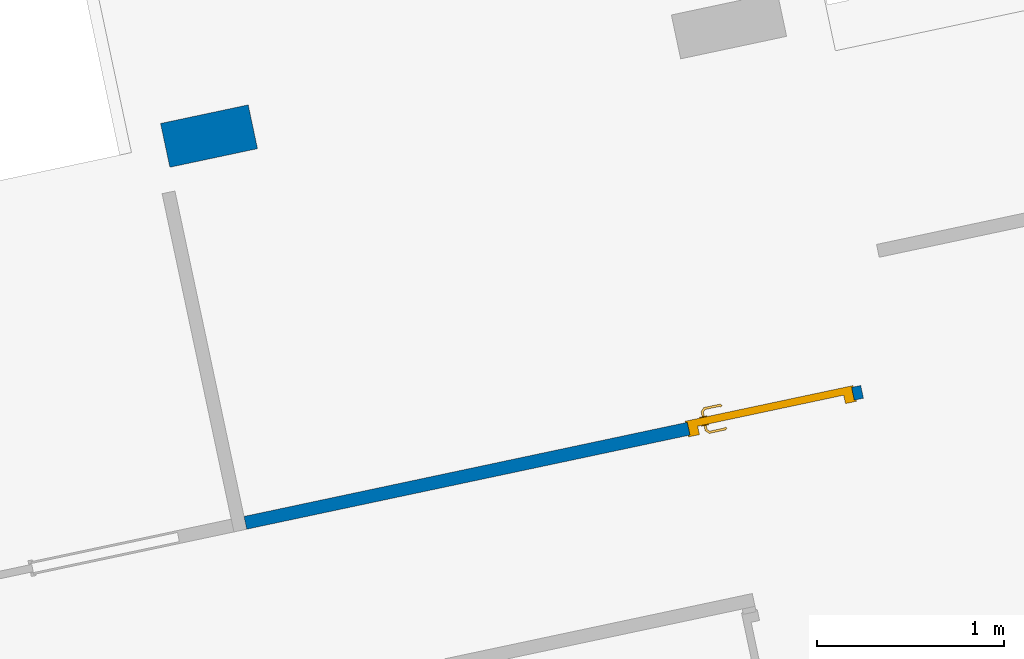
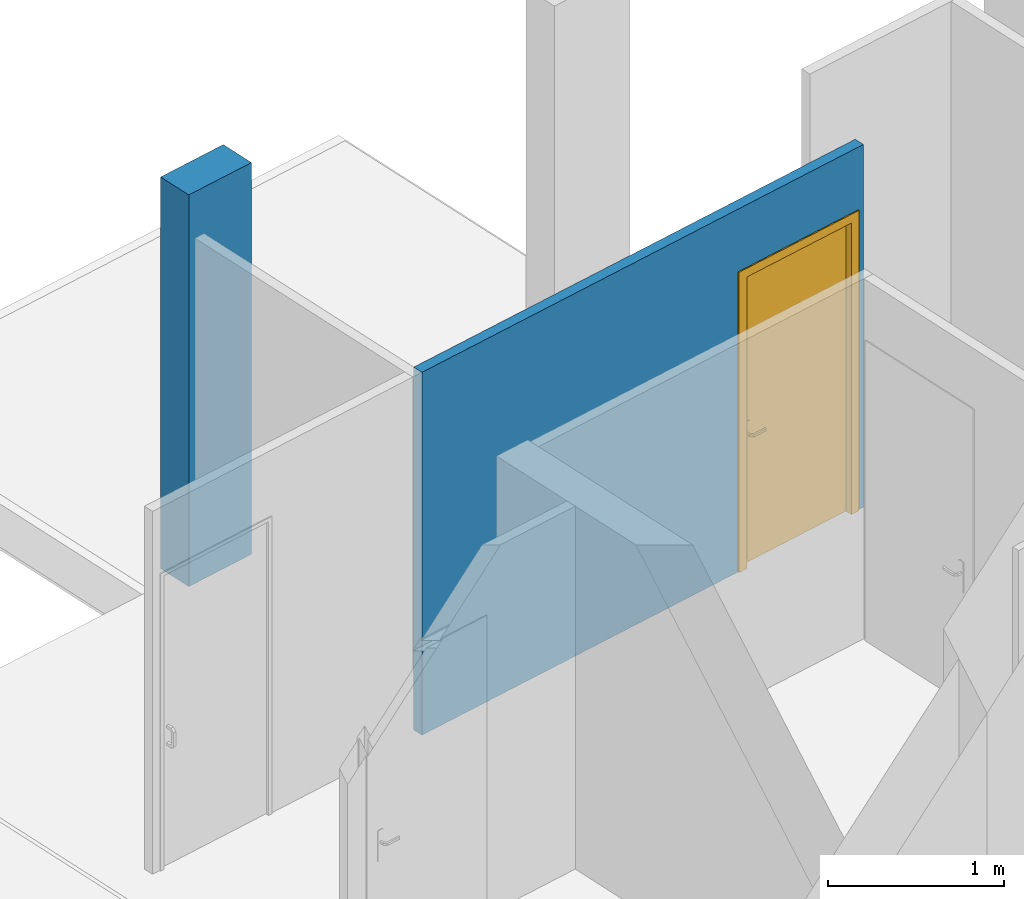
# One storey, part 2 of 11: 2 walls, 1 door, 1 opening.
"""IFC2X3 building model written with IfcOpenShell, lengths in centimetres."""

from ifc_helpers import new_model, entity, si_unit, converted_unit, derived_unit, direction, frame, frame_2d, origin, place, context, subcontext, project, spatial, rectangle, extrude, faceted_brep, source, transform, mapped, material, layer, layer_set, layer_usage, type_object, type_shapes, element, fill, save


model = new_model("IFC2X3")

# Units and contexts
model_context = context("Model", 3, precision=0.001, world=origin(), true_north=direction((6.12303176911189e-17, 1.0)))
body_context = subcontext(model_context, "Body", "Model", "MODEL_VIEW")
ifc_project = project(units=[si_unit("LENGTHUNIT", "METRE", prefix="CENTI"), si_unit("AREAUNIT", "SQUARE_METRE"), si_unit("VOLUMEUNIT", "CUBIC_METRE"), converted_unit("PLANEANGLEUNIT", "DEGREE", entity("IfcRatioMeasure", 0.0174532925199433), si_unit("PLANEANGLEUNIT", "RADIAN"), dimensions=[0, 0, 0, 0, 0, 0, 0]), si_unit("MASSUNIT", "GRAM", prefix="KILO"), derived_unit("MASSDENSITYUNIT", [(si_unit("MASSUNIT", "GRAM", prefix="KILO"), 1), (si_unit("LENGTHUNIT", "METRE"), -3)]), derived_unit("IONCONCENTRATIONUNIT", [(si_unit("MASSUNIT", "GRAM", prefix="KILO"), 1), (si_unit("LENGTHUNIT", "METRE"), -3)]), derived_unit("MOMENTOFINERTIAUNIT", [(si_unit("LENGTHUNIT", "METRE"), 4)]), si_unit("TIMEUNIT", "SECOND"), si_unit("FREQUENCYUNIT", "HERTZ"), si_unit("THERMODYNAMICTEMPERATUREUNIT", "DEGREE_CELSIUS"), derived_unit("THERMALTRANSMITTANCEUNIT", [(si_unit("MASSUNIT", "GRAM", prefix="KILO"), 1), (si_unit("THERMODYNAMICTEMPERATUREUNIT", "KELVIN"), -1), (si_unit("TIMEUNIT", "SECOND"), -3)]), derived_unit("THERMALCONDUCTANCEUNIT", [(si_unit("MASSUNIT", "GRAM", prefix="KILO"), 1), (si_unit("THERMODYNAMICTEMPERATUREUNIT", "KELVIN"), -1), (si_unit("TIMEUNIT", "SECOND"), -3), (si_unit("LENGTHUNIT", "METRE"), 1)]), derived_unit("VOLUMETRICFLOWRATEUNIT", [(si_unit("LENGTHUNIT", "METRE"), 3), (si_unit("TIMEUNIT", "SECOND"), -1)]), derived_unit("MASSFLOWRATEUNIT", [(si_unit("MASSUNIT", "GRAM", prefix="KILO"), 1), (si_unit("TIMEUNIT", "SECOND"), -1)]), derived_unit("ROTATIONALFREQUENCYUNIT", [(si_unit("TIMEUNIT", "SECOND"), -1)]), si_unit("ELECTRICCURRENTUNIT", "AMPERE"), si_unit("ELECTRICVOLTAGEUNIT", "VOLT"), si_unit("POWERUNIT", "WATT"), si_unit("FORCEUNIT", "NEWTON", prefix="KILO"), si_unit("ILLUMINANCEUNIT", "LUX"), si_unit("LUMINOUSFLUXUNIT", "LUMEN"), si_unit("LUMINOUSINTENSITYUNIT", "CANDELA"), derived_unit("USERDEFINED", [(si_unit("MASSUNIT", "GRAM", prefix="KILO"), -1), (si_unit("LENGTHUNIT", "METRE"), -2), (si_unit("TIMEUNIT", "SECOND"), 3), (si_unit("LUMINOUSFLUXUNIT", "LUMEN"), 1)]), derived_unit("USERDEFINED", [(si_unit("MASSUNIT", "GRAM", prefix="KILO"), 1), (si_unit("TIMEUNIT", "SECOND"), -3), (si_unit("LENGTHUNIT", "METRE"), 3), (si_unit("ELECTRICCURRENTUNIT", "AMPERE"), -2)]), derived_unit("SOUNDPOWERUNIT", [(si_unit("MASSUNIT", "GRAM", prefix="KILO"), 1), (si_unit("TIMEUNIT", "SECOND"), -3), (si_unit("LENGTHUNIT", "METRE"), 2)]), derived_unit("SOUNDPRESSUREUNIT", [(si_unit("MASSUNIT", "GRAM", prefix="KILO"), 1), (si_unit("LENGTHUNIT", "METRE"), -1), (si_unit("TIMEUNIT", "SECOND"), -2)]), derived_unit("LINEARVELOCITYUNIT", [(si_unit("LENGTHUNIT", "METRE"), 1), (si_unit("TIMEUNIT", "SECOND"), -1)]), si_unit("PRESSUREUNIT", "PASCAL"), derived_unit("USERDEFINED", [(si_unit("MASSUNIT", "GRAM", prefix="KILO"), 1), (si_unit("LENGTHUNIT", "METRE"), -2), (si_unit("TIMEUNIT", "SECOND"), -2)]), derived_unit("LINEARFORCEUNIT", [(si_unit("MASSUNIT", "GRAM", prefix="KILO"), 1), (si_unit("TIMEUNIT", "SECOND"), -2)]), derived_unit("PLANARFORCEUNIT", [(si_unit("MASSUNIT", "GRAM", prefix="KILO"), 1), (si_unit("LENGTHUNIT", "METRE"), -1), (si_unit("TIMEUNIT", "SECOND"), -2)]), derived_unit("SPECIFICHEATCAPACITYUNIT", [(si_unit("THERMODYNAMICTEMPERATUREUNIT", "KELVIN"), -1), (si_unit("LENGTHUNIT", "METRE"), 2), (si_unit("TIMEUNIT", "SECOND"), -2)]), derived_unit("HEATINGVALUEUNIT", [(si_unit("LENGTHUNIT", "METRE"), 2), (si_unit("TIMEUNIT", "SECOND"), -2)]), derived_unit("VAPORPERMEABILITYUNIT", [(si_unit("LENGTHUNIT", "METRE"), -1), (si_unit("TIMEUNIT", "SECOND"), 1)]), derived_unit("DYNAMICVISCOSITYUNIT", [(si_unit("MASSUNIT", "GRAM", prefix="KILO"), 1), (si_unit("TIMEUNIT", "SECOND"), -1), (si_unit("LENGTHUNIT", "METRE"), -1)]), derived_unit("THERMALEXPANSIONCOEFFICIENTUNIT", [(si_unit("THERMODYNAMICTEMPERATUREUNIT", "KELVIN"), -1)]), derived_unit("MODULUSOFELASTICITYUNIT", [(si_unit("MASSUNIT", "GRAM", prefix="KILO"), 1), (si_unit("LENGTHUNIT", "METRE"), -1), (si_unit("TIMEUNIT", "SECOND"), -2)]), derived_unit("ISOTHERMALMOISTURECAPACITYUNIT", [(si_unit("LENGTHUNIT", "METRE"), 3), (si_unit("MASSUNIT", "GRAM", prefix="KILO"), -1)]), derived_unit("MOISTUREDIFFUSIVITYUNIT", [(si_unit("TIMEUNIT", "SECOND"), -1), (si_unit("LENGTHUNIT", "METRE"), 2)])], contexts=[model_context])

# Site, building, storey
site_placement = place(None, frame((14083.8920177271, -6853.25409548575, 6900.0), z_axis=(0.0, 0.0, 1.0), x_axis=(0.978188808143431, 0.207717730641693, 0.0)))
site = spatial("IfcSite", under=ifc_project, at=site_placement, Name="Surface", CompositionType="ELEMENT")
building_placement = place(site_placement, origin())
building = spatial("IfcBuilding", under=site, at=building_placement, CompositionType="ELEMENT")
storey_placement = place(building_placement, frame((0.0, 0.0, 17.0)))
storey = spatial("IfcBuildingStorey", under=building, at=storey_placement, Name="Rez de chaussée", CompositionType="ELEMENT", Elevation=17.0000000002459)

# Wall
ifc_material_1 = material(Name="__ ENDUIT_Blanc")
ifc_layer_1 = layer(ifc_material_1, 2.0)
ifc_material_2 = material(Name="Béton, précoulé")
ifc_layer_2 = layer(ifc_material_2, 20.0)
ifc_layer_3 = layer(ifc_material_1, 2.0)
ifc_layer_set_1 = layer_set([ifc_layer_1, ifc_layer_2, ifc_layer_3], Name="Mur de base:*BRIQUE 24 (20 + INT 2 + EXT 2) (enduit 2 faces)")
ifc_layer_usage_1 = layer_usage(ifc_layer_set_1, "AXIS2", "NEGATIVE", 12.0)
wall_type_1 = type_object("IfcWallType", Name="Mur de base:*BRIQUE 24 (20 + INT 2 + EXT 2) (enduit 2 faces)", PredefinedType="STANDARD", material=ifc_layer_set_1)
wall_1_placement = place(storey_placement, frame((-7501.79714756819, 15438.9391445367, 0.0)))
element("IfcWallStandardCase", 1, at=wall_1_placement, inside=storey, type_object=wall_type_1, material=ifc_layer_usage_1, Name="Mur de base:*BRIQUE 24 (20 + INT 2 + EXT 2) (enduit 2 faces)", ObjectType="Mur de base:*BRIQUE 24 (20 + INT 2 + EXT 2) (enduit 2 faces)", context=body_context, shape_type="SweptSolid", body=[
    extrude(rectangle(XDim=48.0000000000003, YDim=24.0000000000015, at=frame_2d((24.0000000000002, 0.0), x_axis=(-1.0, 0.0))), origin(), (0.0, 0.0, 1.0), 271.999999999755),
])

# Wall, opening, door
ifc_material_3 = material(Name="__ BA 13")
ifc_layer_4 = layer(ifc_material_3, 7.0)
ifc_layer_set_2 = layer_set([ifc_layer_4], Name="Mur de base:*Cloison 72/48 cm")
ifc_layer_usage_2 = layer_usage(ifc_layer_set_2, "AXIS2", "NEGATIVE", 3.5)
wall_type_2 = type_object("IfcWallType", Name="Mur de base:*Cloison 72/48 cm", PredefinedType="STANDARD", material=ifc_layer_set_2)
wall_2_placement = place(storey_placement, frame((-7163.9551432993, 15232.1673447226, 0.0), z_axis=(0.0, 0.0, 1.0), x_axis=(-1.0, 0.0, 0.0)))
wall_2 = element("IfcWallStandardCase", 2, at=wall_2_placement, inside=storey, type_object=wall_type_2, material=ifc_layer_usage_2, Name="Mur de base:*Cloison 72/48 cm", ObjectType="Mur de base:*Cloison 72/48 cm", context=body_context, shape_type="SweptSolid", body=[
    extrude(rectangle(XDim=337.842004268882, YDim=7.00000000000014, at=frame_2d((168.921002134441, -8.66418048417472e-13), x_axis=(1.0, 0.0))), origin(), (0.0, 0.0, 1.0), 251.999999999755),
])
opening_placement = place(wall_2_placement, frame((95.0, 3.49999999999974, 0.0)))
opening = element("IfcOpeningElement", 3, at=opening_placement, cuts=wall_2, Name="*Porte_alveolaire:Pp 83 x 204:1", ObjectType="Opening", context=body_context, shape_type="SweptSolid", body=[
    extrude(rectangle(XDim=207.5, YDim=89.9999999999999, at=frame_2d((103.75, 45.0), x_axis=(1.0, 0.0))), frame((0.0, 0.0, 0.0), z_axis=(0.0, -1.0, 0.0), x_axis=(0.0, 0.0, 1.0)), (0.0, 0.0, 1.0), 7.0),
])
ifc_material_4 = material(Name="<Unnamed>")
door_style = type_object("IfcDoorStyle", Name="*Porte_alveolaire:Pp 83 x 204", ConstructionType="NOTDEFINED", OperationType="NOTDEFINED", ParameterTakesPrecedence=False, Sizeable=False, material=ifc_material_4)
shared_shape = source(origin(), body_context, "Body", "Brep", [
    faceted_brep([(81.2025298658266, 3.69990393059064, 90.7780440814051), (80.7974701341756, 3.69990393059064, 90.7780440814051), (80.3999999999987, 3.69990393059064, 90.699999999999), (80.3999999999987, 3.69990393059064, 89.300000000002), (80.7974701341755, 3.69990393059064, 89.221955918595), (81.2025298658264, 3.69990393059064, 89.2219559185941), (81.6000000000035, 3.69990393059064, 89.2999999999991), (81.6000000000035, 3.69990393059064, 90.699999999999), (80.3999999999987, 5.94842438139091, 90.699999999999), (80.3999999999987, 5.94842438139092, 89.300000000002), (80.7974701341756, 6.11306190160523, 90.7780440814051), (81.2025298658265, 6.28084313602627, 90.7780440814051), (79.5838906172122, 7.89948238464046, 90.7780440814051), (79.4161093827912, 7.49442265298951, 90.7780440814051), (71.079312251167, 7.49442265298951, 90.7780440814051), (70.911531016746, 7.89948238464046, 90.7780440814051), (70.1451046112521, 7.13305597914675, 90.7780440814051), (70.431525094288, 6.84663549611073, 90.7780440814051), (81.6000000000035, 6.44548065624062, 90.699999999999), (81.6000000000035, 6.44548065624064, 89.2999999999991), (81.2025298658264, 6.28084313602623, 89.2219559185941), (80.7974701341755, 6.1130619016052, 89.221955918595), (79.4161093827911, 7.49442265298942, 89.221955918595), (79.5838906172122, 7.89948238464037, 89.2219559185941), (70.911531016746, 7.89948238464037, 89.221955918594), (71.079312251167, 7.49442265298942, 89.221955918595), (70.4315250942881, 6.84663549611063, 89.221955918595), (70.1451046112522, 7.13305597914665, 89.221955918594), (79.2514718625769, 7.09695251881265, 89.300000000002), (79.2514718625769, 7.09695251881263, 90.699999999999), (79.7485281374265, 8.29695251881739, 90.699999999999), (79.7485281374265, 8.29695251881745, 89.2999999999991), (75.2477108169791, 7.0969525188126, 90.699999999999), (71.2439497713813, 7.09695251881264, 90.699999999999), (71.2439497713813, 7.09695251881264, 89.300000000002), (75.2477108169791, 7.09695251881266, 89.300000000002), (75.247710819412, 7.71239668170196, 90.7878116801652), (74.7399422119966, 8.29695251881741, 90.699999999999), (70.7468934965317, 8.29695251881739, 90.699999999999), (75.7554791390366, 8.29695251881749, 89.2999999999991), (70.7468934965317, 8.29695251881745, 89.2999999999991), (75.2477107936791, 7.71239667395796, 89.2121883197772), (69.8640507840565, 7.41410980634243, 90.699999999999), (69.8640507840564, 7.41410980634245, 89.2999999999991), (70.7125789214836, 6.56558166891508, 89.300000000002), (70.7125789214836, 6.56558166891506, 90.699999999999)], [[[0, 1, 2, 3, 4, 5, 6, 7]], [[8, 9, 3, 2]], [[1, 10, 8, 2]], [[1, 0, 11, 12, 13, 10]], [[14, 15, 16, 17]], [[7, 18, 11, 0]], [[18, 7, 6, 19]], [[6, 5, 20, 19]], [[5, 4, 21, 22, 23, 20]], [[24, 25, 26, 27]], [[4, 3, 9, 21]], [[28, 9, 8, 29]], [[8, 10, 13, 29]], [[18, 30, 12, 11]], [[31, 30, 18, 19]], [[19, 20, 23, 31]], [[21, 9, 28, 22]], [[28, 29, 32, 33, 34, 35]], [[36, 32, 13]], [[37, 38, 15]], [[37, 12, 30]], [[36, 12, 37]], [[14, 32, 36]], [[36, 15, 14]], [[29, 13, 32]], [[32, 14, 33]], [[12, 36, 13]], [[15, 36, 37]], [[30, 31, 39, 40, 38, 37]], [[23, 41, 39]], [[24, 39, 41]], [[39, 31, 23]], [[39, 24, 40]], [[22, 35, 41]], [[41, 23, 22]], [[41, 35, 25]], [[35, 22, 28]], [[34, 25, 35]], [[24, 41, 25]], [[17, 16, 42, 43, 27, 26, 44, 45]], [[44, 34, 33, 45]], [[33, 14, 17, 45]], [[15, 38, 42, 16]], [[42, 38, 40, 43]], [[24, 27, 43, 40]], [[34, 44, 26, 25]]]),
    faceted_brep([(80.7974701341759, -1.30009606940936, 90.7780440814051), (81.2025298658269, -1.30009606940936, 90.7780440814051), (81.6000000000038, -1.30009606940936, 90.6999999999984), (81.6000000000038, -1.30009606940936, 89.2999999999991), (81.2025298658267, -1.30009606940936, 89.221955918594), (80.7974701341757, -1.30009606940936, 89.221955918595), (80.399999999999, -1.30009606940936, 89.3000000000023), (80.3999999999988, -1.30009606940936, 90.699999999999), (81.2025298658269, -3.90055361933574, 90.7780440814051), (81.600000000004, -4.06519113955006, 90.6999999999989), (80.7974701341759, -3.73277238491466, 90.7780440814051), (79.4298602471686, -5.10038227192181, 90.7780440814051), (79.5976414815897, -5.50544200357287, 90.7780440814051), (70.9142453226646, -5.50544200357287, 90.778044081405), (71.0820265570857, -5.10038227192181, 90.778044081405), (70.4342394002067, -4.45259511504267, 90.778044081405), (70.1478189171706, -4.73901559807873, 90.778044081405), (80.3999999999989, -3.56813486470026, 90.699999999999), (80.399999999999, -3.56813486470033, 89.3000000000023), (80.7974701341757, -3.73277238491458, 89.221955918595), (81.2025298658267, -3.90055361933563, 89.221955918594), (79.5976414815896, -5.5054420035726, 89.221955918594), (79.4298602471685, -5.10038227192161, 89.221955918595), (71.0820265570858, -5.10038227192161, 89.221955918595), (70.9142453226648, -5.50544200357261, 89.221955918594), (70.1478189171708, -4.73901559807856, 89.221955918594), (70.4342394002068, -4.45259511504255, 89.221955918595), (81.6000000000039, -4.06519113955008, 89.2999999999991), (79.7622790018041, -5.90291213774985, 90.6999999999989), (79.2652227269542, -4.70291213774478, 90.699999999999), (79.2652227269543, -4.70291213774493, 89.3000000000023), (79.762279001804, -5.90291213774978, 89.2999999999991), (75.2559433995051, -5.31837634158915, 90.7878115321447), (75.7692302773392, -5.90291213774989, 90.6999999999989), (70.7496078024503, -5.9029121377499, 90.6999999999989), (75.2559434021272, -4.70291213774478, 90.699999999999), (71.2466640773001, -4.70291213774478, 90.6999999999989), (75.2559436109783, -4.70291213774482, 89.3000000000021), (71.2466640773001, -4.70291213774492, 89.3000000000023), (75.2559434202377, -5.31837634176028, 89.2121884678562), (74.7426576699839, -5.90291213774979, 89.2999999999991), (70.7496078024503, -5.90291213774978, 89.2999999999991), (70.7152932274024, -4.17154128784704, 89.300000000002), (69.866765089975, -5.02006942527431, 89.2999999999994), (69.8667650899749, -5.02006942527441, 90.6999999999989), (70.7152932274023, -4.1715412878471, 90.6999999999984)], [[[0, 1, 2, 3, 4, 5, 6, 7]], [[2, 1, 8, 9]], [[1, 0, 10, 11, 12, 8]], [[13, 14, 15, 16]], [[0, 7, 17, 10]], [[18, 17, 7, 6]], [[5, 19, 18, 6]], [[5, 4, 20, 21, 22, 19]], [[23, 24, 25, 26]], [[3, 27, 20, 4]], [[9, 27, 3, 2]], [[9, 8, 12, 28]], [[10, 17, 29, 11]], [[30, 29, 17, 18]], [[18, 19, 22, 30]], [[20, 27, 31, 21]], [[28, 31, 27, 9]], [[12, 32, 33]], [[13, 33, 32]], [[33, 28, 12]], [[33, 13, 34]], [[11, 35, 32]], [[32, 12, 11]], [[32, 35, 14]], [[35, 11, 29]], [[36, 14, 35]], [[13, 32, 14]], [[30, 37, 38, 36, 35, 29]], [[39, 37, 22]], [[40, 41, 24]], [[40, 21, 31]], [[39, 21, 40]], [[23, 37, 39]], [[39, 24, 23]], [[30, 22, 37]], [[37, 23, 38]], [[21, 39, 22]], [[24, 39, 40]], [[31, 28, 33, 34, 41, 40]], [[42, 26, 25, 43, 44, 16, 15, 45]], [[13, 16, 44, 34]], [[36, 45, 15, 14]], [[42, 45, 36, 38]], [[38, 23, 26, 42]], [[24, 41, 43, 25]], [[44, 43, 41, 34]]]),
    faceted_brep([(83.0, 3.19990393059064, 77.0), (83.0, 3.19990393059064, 98.0), (82.0352761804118, 3.19990393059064, 98.3996016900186), (81.0, 3.19990393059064, 98.5358983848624), (79.9647238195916, 3.19990393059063, 98.3996016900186), (79.0, 3.19990393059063, 98.0), (79.0, 3.19990393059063, 77.0), (79.9647238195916, 3.19990393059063, 76.6003983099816), (81.0, 3.19990393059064, 76.4641016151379), (82.0352761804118, 3.19990393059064, 76.6003983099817), (81.0, 3.69990393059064, 98.5358983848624), (82.0352761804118, 3.69990393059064, 98.3996016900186), (83.0, 3.69990393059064, 98.0), (83.0, 3.69990393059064, 77.0), (82.0352761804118, 3.69990393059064, 76.6003983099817), (81.0, 3.69990393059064, 76.4641016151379), (79.9647238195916, 3.69990393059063, 76.6003983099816), (79.0, 3.69990393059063, 77.0), (79.0, 3.69990393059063, 98.0), (79.9647238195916, 3.69990393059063, 98.3996016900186)], [[[0, 1, 2, 3, 4, 5, 6, 7, 8, 9]], [[10, 11, 12, 13, 14, 15, 16, 17, 18, 19]], [[4, 19, 18, 5]], [[3, 10, 19, 4]], [[2, 11, 10, 3]], [[2, 1, 12, 11]], [[12, 1, 0, 13]], [[9, 14, 13, 0]], [[8, 15, 14, 9]], [[7, 16, 15, 8]], [[7, 6, 17, 16]], [[17, 6, 5, 18]]]),
    faceted_brep([(81.0, -1.30009606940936, 76.4641016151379), (82.0352761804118, -1.30009606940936, 76.6003983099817), (83.0, -1.30009606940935, 77.0), (83.0, -1.30009606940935, 98.0), (82.0352761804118, -1.30009606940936, 98.3996016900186), (81.0, -1.30009606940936, 98.5358983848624), (79.9647238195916, -1.30009606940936, 98.3996016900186), (79.0, -1.30009606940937, 98.0), (79.0, -1.30009606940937, 77.0), (79.9647238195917, -1.30009606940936, 76.6003983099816), (83.0, -0.800096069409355, 98.0), (83.0, -0.800096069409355, 77.0), (82.0352761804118, -0.800096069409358, 76.6003983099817), (81.0, -0.800096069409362, 76.4641016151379), (79.9647238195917, -0.800096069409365, 76.6003983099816), (79.0, -0.800096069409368, 77.0), (79.0, -0.800096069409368, 98.0), (79.9647238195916, -0.800096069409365, 98.3996016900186), (81.0, -0.800096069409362, 98.5358983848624), (82.0352761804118, -0.800096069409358, 98.3996016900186)], [[[0, 1, 2, 3, 4, 5, 6, 7, 8, 9]], [[10, 11, 12, 13, 14, 15, 16, 17, 18, 19]], [[1, 12, 11, 2]], [[0, 13, 12, 1]], [[9, 14, 13, 0]], [[9, 8, 15, 14]], [[15, 8, 7, 16]], [[6, 17, 16, 7]], [[5, 18, 17, 6]], [[4, 19, 18, 5]], [[4, 3, 10, 19]], [[10, 3, 2, 11]]]),
    faceted_brep([(90.0, -9.60694093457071e-05, 0.0), (91.0, -9.60694093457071e-05, 0.0), (91.0, -0.800096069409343, 0.0), (86.5000000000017, -0.800096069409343, 0.0), (86.5000000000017, 3.19990393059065, 0.0), (85.0, 3.19990393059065, 0.0), (85.0, 7.79990393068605, 0.0), (91.0, 7.79990393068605, 0.0), (91.0, 6.99990393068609, 0.0), (90.0, 6.99990393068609, 0.0), (90.0, 6.99990393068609, 207.5), (90.0, -9.60694093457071e-05, 207.5), (91.0, 6.99990393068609, 208.5), (-1.0, 6.99990393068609, 208.5), (-1.0, 6.99990393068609, 0.0), (0.0, 6.99990393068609, 0.0), (0.0, 6.99990393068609, 207.5), (91.0, 7.79990393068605, 208.5), (85.0, 7.79990393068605, 202.500000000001), (5.0, 7.79990393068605, 202.500000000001), (5.0, 7.79990393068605, 0.0), (-1.0, 7.79990393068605, 0.0), (-1.0, 7.79990393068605, 208.5), (85.0, 3.19990393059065, 202.500000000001), (86.5000000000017, 3.19990393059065, 204.0), (3.50000000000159, 3.19990393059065, 204.0), (3.50000000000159, 3.19990393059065, 0.0), (5.0, 3.19990393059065, 0.0), (5.0, 3.19990393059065, 202.500000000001), (86.5000000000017, -0.800096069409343, 204.0), (91.0, -0.800096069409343, 208.5), (-1.0, -0.800096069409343, 208.5), (-1.0, -0.800096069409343, 0.0), (3.50000000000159, -0.800096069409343, 0.0), (3.50000000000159, -0.800096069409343, 204.0), (91.0, -9.60694093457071e-05, 208.5), (0.0, -9.60694093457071e-05, 207.5), (0.0, -9.60694093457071e-05, 0.0), (-1.0, -9.60694093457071e-05, 0.0), (-1.0, -9.60694093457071e-05, 208.5)], [[[0, 1, 2, 3, 4, 5, 6, 7, 8, 9]], [[9, 10, 11, 0]], [[8, 12, 13, 14, 15, 16, 10, 9]], [[7, 17, 12, 8]], [[6, 18, 19, 20, 21, 22, 17, 7]], [[5, 23, 18, 6]], [[4, 24, 25, 26, 27, 28, 23, 5]], [[3, 29, 24, 4]], [[2, 30, 31, 32, 33, 34, 29, 3]], [[1, 35, 30, 2]], [[0, 11, 36, 37, 38, 39, 35, 1]], [[16, 15, 37, 36]], [[37, 15, 14, 21, 20, 27, 26, 33, 32, 38]], [[22, 21, 14, 13]], [[28, 27, 20, 19]], [[34, 33, 26, 25]], [[39, 38, 32, 31]], [[10, 16, 36, 11]], [[17, 22, 13, 12]], [[23, 28, 19, 18]], [[29, 34, 25, 24]], [[35, 39, 31, 30]]]),
    faceted_brep([(86.5000000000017, -0.800096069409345, 204.0), (3.50000000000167, -0.800096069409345, 204.0), (3.50000000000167, -0.800096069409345, 0.0), (86.5000000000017, -0.800096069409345, 0.0), (86.5000000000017, 3.19990393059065, 204.0), (86.5000000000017, 3.19990393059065, 0.0), (3.50000000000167, 3.19990393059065, 0.0), (3.50000000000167, 3.19990393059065, 204.0)], [[[0, 1, 2, 3]], [[4, 5, 6, 7]], [[3, 5, 4, 0]], [[2, 6, 5, 3]], [[1, 7, 6, 2]], [[0, 4, 7, 1]]]),
])
type_shapes(door_style, [shared_shape])
door_placement = place(opening_placement, frame((-90.0, -6.99990393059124, 0.0)))
door = element("IfcDoor", 4, at=door_placement, inside=storey, type_object=door_style, material=ifc_material_4, Name="*Porte_alveolaire:Pp 83 x 204", ObjectType="*Porte_alveolaire:Pp 83 x 204", OverallHeight=207.5, OverallWidth=90.0000000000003, context=body_context, shape_type="MappedRepresentation", body=[
    mapped(shared_shape, transform((0.0, 0.0, 0.0), scale=1.0)),
])
fill(opening, door)

save(model, "model.ifc")
